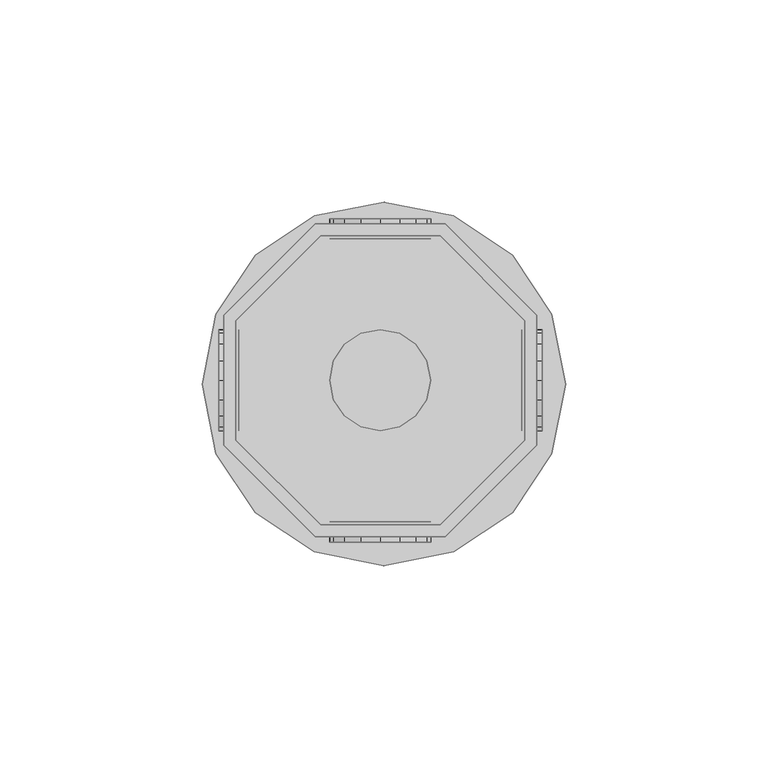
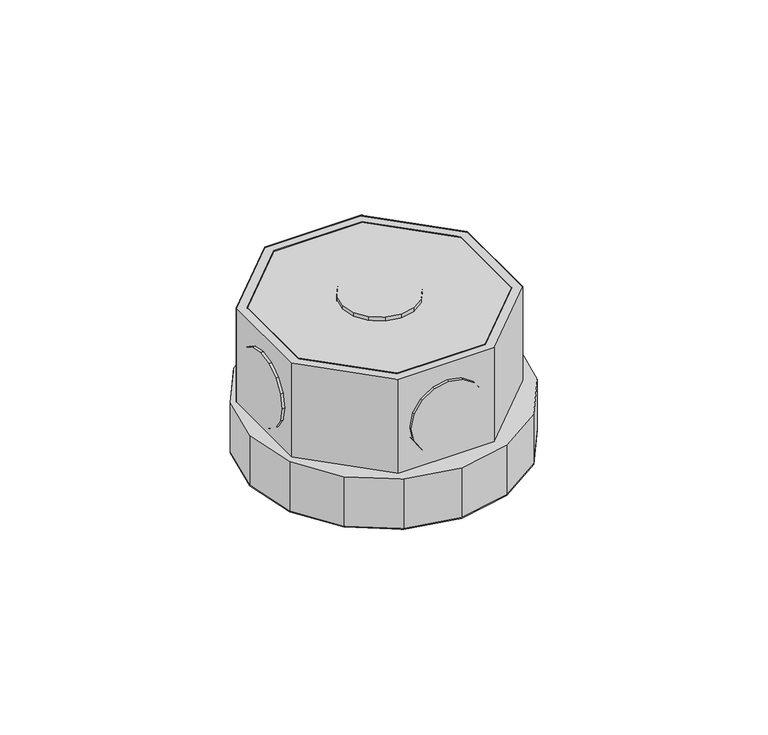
"""IFC4 building model written with IfcOpenShell, lengths in millimetres: light fixture geometry,  213850 :  213850."""

import ifcopenshell
import ifcopenshell.guid

model = None  # the IFC model being written
_history = None  # IfcOwnerHistory: only IFC2X3 demands one
_inside = {}  # id of a spatial element -> (the spatial element, [elements in it])
_under = {}  # id of a project, library or spatial element -> (it, [spatial elements below it])
_declared = {}  # id of a project -> (the project, [libraries it declares])
_typed = {}  # id of a type object -> (the type object, [elements of that type])
_made_of = {}  # id of a material, layer set ... -> (it, [elements and type objects made of it])


def new_model(schema):
    """Start an empty IFC model of exactly this schema.

    Asked for "IFC4X3", IfcOpenShell would pick the latest addendum, in which some entities
    have other attributes; the version numbers below select the first issue.
    IFC2X3 requires an IfcOwnerHistory on every rooted entity: one is made here for all.
    """
    global model, _history
    if schema == "IFC4X3":
        model = ifcopenshell.file(schema_version=(4, 3, 0, 0))
    else:
        model = ifcopenshell.file(schema=schema)
    _inside.clear()
    _under.clear()
    _declared.clear()
    _typed.clear()
    _made_of.clear()
    _history = None
    if model.schema == "IFC2X3":
        org = make("IfcOrganization", Name="unknown")
        user = make(
            "IfcPersonAndOrganization",
            ThePerson=make("IfcPerson", FamilyName="unknown"),
            TheOrganization=org,
        )
        app = make(
            "IfcApplication",
            ApplicationDeveloper=org,
            Version="unknown",
            ApplicationFullName="unknown",
            ApplicationIdentifier="unknown",
        )
        _history = make(
            "IfcOwnerHistory",
            OwningUser=user,
            OwningApplication=app,
            ChangeAction="ADDED",
            CreationDate=0,
        )
    return model


def make(cls, **values):
    """One entity of the class cls with the attributes given. An attribute that is None is left unset."""
    return model.create_entity(
        cls, **{name: value for name, value in values.items() if value is not None}
    )


def rooted(cls, **values):
    """An entity with a GlobalId (a new one), such as an element, a storey or a relation."""
    return make(cls, GlobalId=ifcopenshell.guid.new(), OwnerHistory=_history, **values)


def si_unit(unit_type, name, prefix=None):
    """IfcSIUnit, for example si_unit("LENGTHUNIT", "METRE", prefix="MILLI")."""
    return make("IfcSIUnit", UnitType=unit_type, Prefix=prefix, Name=name)


def assignment(units):
    """IfcUnitAssignment: the units of a project."""
    return None if units is None else make("IfcUnitAssignment", Units=units)


def point(xyz):
    """IfcCartesianPoint."""
    return None if xyz is None else make("IfcCartesianPoint", Coordinates=xyz)


def direction(xyz):
    """IfcDirection."""
    return None if xyz is None else make("IfcDirection", DirectionRatios=xyz)


def frame(location, z_axis=None, x_axis=None):
    """IfcAxis2Placement3D, a coordinate frame: its origin and axes. An axis left out is left unset."""
    return make(
        "IfcAxis2Placement3D",
        Location=point(location),
        Axis=direction(z_axis),
        RefDirection=direction(x_axis),
    )


def origin():
    """The frame at (0, 0, 0) with its axes left unset."""
    return frame((0.0, 0.0, 0.0))


def place(relative_to, where):
    """IfcLocalPlacement: puts the frame where relative to a parent placement (None: the world)."""
    return make(
        "IfcLocalPlacement", PlacementRelTo=relative_to, RelativePlacement=where
    )


def context(
    kind, dimensions, precision=None, world=None, true_north=None, identifier=None
):
    """IfcGeometricRepresentationContext, for example the 3D "Model" context."""
    return make(
        "IfcGeometricRepresentationContext",
        ContextIdentifier=identifier,
        ContextType=kind,
        CoordinateSpaceDimension=dimensions,
        Precision=precision,
        WorldCoordinateSystem=world,
        TrueNorth=true_north,
    )


def project(units=None, contexts=None):
    """IfcProject with its units and contexts."""
    return rooted(
        "IfcProject",
        Name="project",
        RepresentationContexts=contexts,
        UnitsInContext=assignment(units),
    )


def spatial(cls, under=None, at=None, **own):
    """A site, building, storey or space (cls), placed at a placement, below another one or the project."""
    s = rooted(cls, ObjectPlacement=at, **own)
    if under is not None:
        _under.setdefault(under.id(), (under, []))[1].append(s)
    return s


def point_list(points):
    """IfcCartesianPointList2D or 3D."""
    cls = (
        "IfcCartesianPointList2D" if len(points[0]) == 2 else "IfcCartesianPointList3D"
    )
    return make(cls, CoordList=points)


def triangles(points, corners, closed=None, point_numbers=None):
    """IfcTriangulatedFaceSet: each triangle names its three corners, points numbered from 1."""
    return make(
        "IfcTriangulatedFaceSet",
        Coordinates=point_list(points),
        Closed=closed,
        CoordIndex=corners,
        PnIndex=point_numbers,
    )


def shape(context_of_items, identifier, shape_type, items):
    """IfcShapeRepresentation: the items that make up one representation, for example the "Body"."""
    return make(
        "IfcShapeRepresentation",
        ContextOfItems=context_of_items,
        RepresentationIdentifier=identifier,
        RepresentationType=shape_type,
        Items=items,
    )


def source(mapping_origin, context_of_items, identifier, shape_type, items):
    """IfcRepresentationMap: a shape defined once, which mapped items show again and again."""
    return make(
        "IfcRepresentationMap",
        MappingOrigin=mapping_origin,
        MappedRepresentation=shape(context_of_items, identifier, shape_type, items),
    )


def transform(
    local_origin,
    x_axis=None,
    y_axis=None,
    z_axis=None,
    scale=None,
    scale2=None,
    scale3=None,
    uniform=True,
):
    """IfcCartesianTransformationOperator3D, or its non-uniform kind. x_axis, y_axis, z_axis: its Axis1, 2, 3."""
    if uniform:
        return make(
            "IfcCartesianTransformationOperator3D",
            Axis1=direction(x_axis),
            Axis2=direction(y_axis),
            LocalOrigin=point(local_origin),
            Scale=scale,
            Axis3=direction(z_axis),
        )
    return make(
        "IfcCartesianTransformationOperator3DnonUniform",
        Axis1=direction(x_axis),
        Axis2=direction(y_axis),
        LocalOrigin=point(local_origin),
        Scale=scale,
        Axis3=direction(z_axis),
        Scale2=scale2,
        Scale3=scale3,
    )


def mapped(mapping_source, mapping_target):
    """IfcMappedItem: shows the shape of a source again, moved by a transform."""
    return make(
        "IfcMappedItem", MappingSource=mapping_source, MappingTarget=mapping_target
    )


def made_of(thing, what):
    """Note that an element or type object is made of a material, layer set ...; save() writes the relation."""
    if what is not None:
        _made_of.setdefault(what.id(), (what, []))[1].append(thing)
    return thing


def element(
    cls,
    number,
    at=None,
    inside=None,
    cuts=None,
    type_object=None,
    material=None,
    context=None,
    identifier="Body",
    shape_type=None,
    held_by="IfcProductDefinitionShape",
    body=None,
    shapes=None,
    **own,
):
    """One element of the class cls, such as IfcWall. Its Tag is "e" and its number.

    at: its placement. inside: the storey or other place that contains it. cuts: it is an
    opening in that element (IfcRelVoidsElement). A single representation is given by context,
    identifier, shape_type and body (its items); several are given by shapes. held_by: the class
    of the entity that holds the representations. save() writes the other relations.
    """
    e = rooted(cls, Tag="e%d" % number, ObjectPlacement=at, **own)
    if body is not None:
        shapes = [shape(context, identifier, shape_type, body)]
    if shapes is not None:
        e.Representation = make(held_by, Representations=shapes)
    if inside is not None:
        _inside.setdefault(inside.id(), (inside, []))[1].append(e)
    if cuts is not None:
        rooted(
            "IfcRelVoidsElement", RelatingBuildingElement=cuts, RelatedOpeningElement=e
        )
    if type_object is not None:
        _typed.setdefault(type_object.id(), (type_object, []))[1].append(e)
    return made_of(e, material)


def aggregate(whole, parts):
    """IfcRelAggregates: a whole, such as a stair, and the parts it consists of."""
    return rooted("IfcRelAggregates", RelatingObject=whole, RelatedObjects=parts)


def save(model, path):
    """Write the relations noted so far, then the file.

    IfcRelAggregates (storeys below a building ...), IfcRelContainedInSpatialStructure (elements
    in a storey), IfcRelDefinesByType, IfcRelAssociatesMaterial and IfcRelDeclares: one each for
    every whole, place, type object, material and project.
    """
    for whole, parts in _under.values():
        aggregate(whole, parts)
    for where, things in _inside.values():
        rooted(
            "IfcRelContainedInSpatialStructure",
            RelatedElements=things,
            RelatingStructure=where,
        )
    for kind, things in _typed.values():
        rooted("IfcRelDefinesByType", RelatedObjects=things, RelatingType=kind)
    for what, things in _made_of.values():
        rooted("IfcRelAssociatesMaterial", RelatedObjects=things, RelatingMaterial=what)
    for by, libraries in _declared.values():
        rooted("IfcRelDeclares", RelatingContext=by, RelatedDefinitions=libraries)
    model.write(path)


def light_fixture_b59c6fc7(model_context):
    return source(origin(), model_context, "Body", "Tessellation", [
        triangles([(9614.9997391, 25520.5003967, 2924.5999741), (9585.3998016, 25520.5003967, 2975.400071), (9585.3998016, 25520.5003967, 2924.5999741), (9614.9997391, 25520.5003967, 2975.400071), (9616.2002472, 25446.000293, 2924.5999741), (9584.099881, 25446.000293, 2975.400071), (9584.099881, 25446.000293, 2924.5999741), (9616.2002472, 25446.000293, 2975.400071), (9564.3999207, 25499.499353, 2975.400071), (9564.3999207, 25499.499353, 2924.5999741), (9638.9000244, 25468.6989075, 2924.5999741), (9638.9000244, 25468.6989075, 2975.400071), (9564.3999207, 25469.9011597, 2975.400071), (9564.3999207, 25469.9011597, 2924.5999741), (9638.9000244, 25500.7992737, 2924.5999741), (9638.9000244, 25500.7992737, 2975.400071), (9585.3998016, 25449.0001099, 2975.400071), (9585.3998016, 25449.0001099, 2924.5999741), (9616.2002472, 25523.5002136, 2924.5999741), (9616.2002472, 25523.5002136, 2975.400071), (9614.9997391, 25449.0001099, 2924.5999741), (9614.9997391, 25449.0001099, 2975.400071), (9584.099881, 25523.5002136, 2975.400071), (9584.099881, 25523.5002136, 2924.5999741), (9635.9002075, 25469.9011597, 2924.5999741), (9635.9002075, 25469.9011597, 2975.400071), (9561.4001038, 25500.7992737, 2975.400071), (9561.4001038, 25500.7992737, 2924.5999741), (9561.4001038, 25468.6989075, 2975.400071), (9635.9002075, 25499.499353, 2975.400071), (9635.9002075, 25499.499353, 2924.5999741), (9561.4001038, 25468.6989075, 2924.5999741), (9564.3999207, 25469.9011597, 2972.3999634), (9585.3998016, 25449.0001099, 2972.3999634), (9614.9997391, 25449.0001099, 2972.3999634), (9635.9002075, 25469.9011597, 2972.3999634), (9635.9002075, 25499.499353, 2972.3999634), (9614.9997391, 25520.5003967, 2972.3999634), (9585.3998016, 25520.5003967, 2972.3999634), (9564.3999207, 25499.499353, 2972.3999634), (9561.4001038, 25500.7992737, 2942.4000504), (9584.099881, 25523.5002136, 2942.4000504), (9616.2002472, 25523.5002136, 2942.4000504), (9638.9000244, 25500.7992737, 2942.4000504), (9638.9000244, 25468.6989075, 2942.4000504), (9616.2002472, 25446.000293, 2942.4000504), (9584.099881, 25446.000293, 2942.4000504), (9561.4001038, 25468.6989075, 2942.4000504), (9583.7998993, 25442.3005188, 2942.4000504), (9559.5002197, 25466.5990356, 2942.4000504), (9569.200209, 25451.9999268, 2942.4000504), (9556.0998459, 25483.8003113, 2942.4000504), (9559.5002197, 25501.0992554, 2942.4000504), (9569.200209, 25515.7006897, 2942.4000504), (9583.7998993, 25525.4000977, 2942.4000504), (9601.1000061, 25528.7998901, 2942.4000504), (9618.300119, 25525.4000977, 2942.4000504), (9642.5997986, 25501.0992554, 2942.4000504), (9632.8998093, 25515.7006897, 2942.4000504), (9601.1000061, 25438.8007324, 2942.4000504), (9618.300119, 25442.3005188, 2942.4000504), (9632.8998093, 25451.9999268, 2942.4000504), (9642.5997986, 25466.5990356, 2942.4000504), (9646.1001663, 25483.8003113, 2942.4000504), (9559.5002197, 25466.5990356, 2924.5999741), (9583.7998993, 25442.3005188, 2924.5999741), (9569.200209, 25451.9999268, 2924.5999741), (9556.0998459, 25483.8003113, 2924.5999741), (9559.5002197, 25501.0992554, 2924.5999741), (9569.200209, 25515.7006897, 2924.5999741), (9583.7998993, 25525.4000977, 2924.5999741), (9601.1000061, 25528.7998901, 2924.5999741), (9618.300119, 25525.4000977, 2924.5999741), (9642.5997986, 25501.0992554, 2924.5999741), (9632.8998093, 25515.7006897, 2924.5999741), (9601.1000061, 25438.8007324, 2924.5999741), (9618.300119, 25442.3005188, 2924.5999741), (9632.8998093, 25451.9999268, 2924.5999741), (9642.5997986, 25466.5990356, 2924.5999741), (9646.1001663, 25483.8003113, 2924.5999741), (9588.6001877, 25524.7001404, 2952.6000092), (9595.3997726, 25524.7001404, 2945.9001274), (9591.3000229, 25524.7001404, 2948.5999626), (9587.7002426, 25524.7001404, 2957.4000069), (9600.200061, 25524.7001404, 2944.8998978), (9588.6001877, 25524.7001404, 2962.2000046), (9604.9997681, 25524.7001404, 2945.9001274), (9591.3000229, 25524.7001404, 2966.2000511), (9609.0001053, 25524.7001404, 2948.5999626), (9595.3997726, 25524.7001404, 2968.8998863), (9611.6999405, 25524.7001404, 2952.6000092), (9600.200061, 25524.7001404, 2969.900116), (9612.6998795, 25524.7001404, 2957.4000069), (9604.9997681, 25524.7001404, 2968.8998863), (9611.6999405, 25524.7001404, 2962.2000046), (9609.0001053, 25524.7001404, 2966.2000511), (9595.3997726, 25519.7004456, 2945.9001274), (9588.6001877, 25519.7004456, 2952.6000092), (9591.3000229, 25519.7004456, 2948.5999626), (9600.200061, 25519.7004456, 2944.8998978), (9587.7002426, 25519.7004456, 2957.4000069), (9604.9997681, 25519.7004456, 2945.9001274), (9588.6001877, 25519.7004456, 2962.2000046), (9609.0001053, 25519.7004456, 2948.5999626), (9591.3000229, 25519.7004456, 2966.2000511), (9595.3997726, 25519.7004456, 2968.8998863), (9611.6999405, 25519.7004456, 2952.6000092), (9600.200061, 25519.7004456, 2969.900116), (9612.6998795, 25519.7004456, 2957.4000069), (9604.9997681, 25519.7004456, 2968.8998863), (9611.6999405, 25519.7004456, 2962.2000046), (9609.0001053, 25519.7004456, 2966.2000511), (9588.6001877, 25449.7000671, 2952.6000092), (9595.3997726, 25449.7000671, 2945.9001274), (9591.3000229, 25449.7000671, 2948.5999626), (9587.7002426, 25449.7000671, 2957.4000069), (9600.200061, 25449.7000671, 2944.8998978), (9588.6001877, 25449.7000671, 2962.2000046), (9604.9997681, 25449.7000671, 2945.9001274), (9591.3000229, 25449.7000671, 2966.2000511), (9609.0001053, 25449.7000671, 2948.5999626), (9595.3997726, 25449.7000671, 2968.8998863), (9611.6999405, 25449.7000671, 2952.6000092), (9600.200061, 25449.7000671, 2969.900116), (9612.6998795, 25449.7000671, 2957.4000069), (9604.9997681, 25449.7000671, 2968.8998863), (9611.6999405, 25449.7000671, 2962.2000046), (9609.0001053, 25449.7000671, 2966.2000511), (9595.3997726, 25444.7003723, 2945.9001274), (9588.6001877, 25444.7003723, 2952.6000092), (9591.3000229, 25444.7003723, 2948.5999626), (9600.200061, 25444.7003723, 2944.8998978), (9587.7002426, 25444.7003723, 2957.4000069), (9604.9997681, 25444.7003723, 2945.9001274), (9588.6001877, 25444.7003723, 2962.2000046), (9609.0001053, 25444.7003723, 2948.5999626), (9591.3000229, 25444.7003723, 2966.2000511), (9595.3997726, 25444.7003723, 2968.8998863), (9611.6999405, 25444.7003723, 2952.6000092), (9600.200061, 25444.7003723, 2969.900116), (9612.6998795, 25444.7003723, 2957.4000069), (9604.9997681, 25444.7003723, 2968.8998863), (9611.6999405, 25444.7003723, 2962.2000046), (9609.0001053, 25444.7003723, 2966.2000511), (9565.1998718, 25479.9005493, 2945.9001274), (9565.1998718, 25473.2009583, 2952.6000092), (9565.1998718, 25475.9007935, 2948.5999626), (9565.1998718, 25484.7002563, 2944.8998978), (9565.1998718, 25472.2010193, 2957.4000069), (9565.1998718, 25489.4999634, 2945.9001274), (9565.1998718, 25473.2009583, 2962.2000046), (9565.1998718, 25493.5997131, 2948.5999626), (9565.1998718, 25475.9007935, 2966.2000511), (9565.1998718, 25479.9005493, 2968.8998863), (9565.1998718, 25496.2995483, 2952.6000092), (9565.1998718, 25484.7002563, 2969.900116), (9565.1998718, 25497.1994934, 2957.4000069), (9565.1998718, 25489.4999634, 2968.8998863), (9565.1998718, 25496.2995483, 2962.2000046), (9565.1998718, 25493.5997131, 2966.2000511), (9560.200177, 25473.2009583, 2952.6000092), (9560.200177, 25479.9005493, 2945.9001274), (9560.200177, 25475.9007935, 2948.5999626), (9560.200177, 25472.2010193, 2957.4000069), (9560.200177, 25484.7002563, 2944.8998978), (9560.200177, 25473.2009583, 2962.2000046), (9560.200177, 25489.4999634, 2945.9001274), (9560.200177, 25475.9007935, 2966.2000511), (9560.200177, 25493.5997131, 2948.5999626), (9560.200177, 25479.9005493, 2968.8998863), (9560.200177, 25496.2995483, 2952.6000092), (9560.200177, 25484.7002563, 2969.900116), (9560.200177, 25497.1994934, 2957.4000069), (9560.200177, 25489.4999634, 2968.8998863), (9560.200177, 25496.2995483, 2962.2000046), (9560.200177, 25493.5997131, 2966.2000511), (9640.1999451, 25479.9005493, 2945.9001274), (9640.1999451, 25473.2009583, 2952.6000092), (9640.1999451, 25475.9007935, 2948.5999626), (9640.1999451, 25484.7002563, 2944.8998978), (9640.1999451, 25472.2010193, 2957.4000069), (9640.1999451, 25489.4999634, 2945.9001274), (9640.1999451, 25473.2009583, 2962.2000046), (9640.1999451, 25493.5997131, 2948.5999626), (9640.1999451, 25475.9007935, 2966.2000511), (9640.1999451, 25479.9005493, 2968.8998863), (9640.1999451, 25496.2995483, 2952.6000092), (9640.1999451, 25484.7002563, 2969.900116), (9640.1999451, 25497.1994934, 2957.4000069), (9640.1999451, 25489.4999634, 2968.8998863), (9640.1999451, 25496.2995483, 2962.2000046), (9640.1999451, 25493.5997131, 2966.2000511), (9635.2002502, 25473.2009583, 2952.6000092), (9635.2002502, 25479.9005493, 2945.9001274), (9635.2002502, 25475.9007935, 2948.5999626), (9635.2002502, 25472.2010193, 2957.4000069), (9635.2002502, 25484.7002563, 2944.8998978), (9635.2002502, 25473.2009583, 2962.2000046), (9635.2002502, 25489.4999634, 2945.9001274), (9635.2002502, 25475.9007935, 2966.2000511), (9635.2002502, 25493.5997131, 2948.5999626), (9635.2002502, 25479.9005493, 2968.8998863), (9635.2002502, 25496.2995483, 2952.6000092), (9635.2002502, 25484.7002563, 2969.900116), (9635.2002502, 25497.1994934, 2957.4000069), (9635.2002502, 25489.4999634, 2968.8998863), (9635.2002502, 25496.2995483, 2962.2000046), (9635.2002502, 25493.5997131, 2966.2000511), (9595.3997726, 25473.2009583, 2976.9999733), (9588.6001877, 25479.9005493, 2976.9999733), (9591.3000229, 25475.9007935, 2976.9999733), (9587.7002426, 25484.7002563, 2976.9999733), (9600.200061, 25472.2010193, 2976.9999733), (9588.6001877, 25489.4999634, 2976.9999733), (9604.9997681, 25473.2009583, 2976.9999733), (9591.3000229, 25493.5997131, 2976.9999733), (9609.0001053, 25475.9007935, 2976.9999733), (9595.3997726, 25496.2995483, 2976.9999733), (9611.6999405, 25479.9005493, 2976.9999733), (9600.200061, 25497.1994934, 2976.9999733), (9612.6998795, 25484.7002563, 2976.9999733), (9604.9997681, 25496.2995483, 2976.9999733), (9611.6999405, 25489.4999634, 2976.9999733), (9609.0001053, 25493.5997131, 2976.9999733), (9588.6001877, 25479.9005493, 2971.9999878), (9595.3997726, 25473.2009583, 2971.9999878), (9591.3000229, 25475.9007935, 2971.9999878), (9587.7002426, 25484.7002563, 2971.9999878), (9600.200061, 25472.2010193, 2971.9999878), (9588.6001877, 25489.4999634, 2971.9999878), (9604.9997681, 25473.2009583, 2971.9999878), (9591.3000229, 25493.5997131, 2971.9999878), (9609.0001053, 25475.9007935, 2971.9999878), (9595.3997726, 25496.2995483, 2971.9999878), (9611.6999405, 25479.9005493, 2971.9999878), (9600.200061, 25497.1994934, 2971.9999878), (9612.6998795, 25484.7002563, 2971.9999878), (9604.9997681, 25496.2995483, 2971.9999878), (9611.6999405, 25489.4999634, 2971.9999878), (9609.0001053, 25493.5997131, 2971.9999878)], [[1, 2, 3], [2, 1, 4], [5, 6, 7], [6, 5, 8], [3, 9, 10], [9, 3, 2], [11, 8, 5], [8, 11, 12], [10, 13, 14], [13, 10, 9], [15, 12, 11], [12, 15, 16], [14, 17, 18], [17, 14, 13], [19, 16, 15], [16, 19, 20], [17, 21, 18], [21, 17, 22], [23, 19, 24], [19, 23, 20], [22, 25, 21], [25, 22, 26], [27, 24, 28], [24, 27, 23], [6, 13, 29], [29, 13, 27], [27, 13, 9], [27, 9, 23], [23, 9, 2], [23, 2, 4], [23, 4, 20], [20, 4, 30], [8, 17, 6], [6, 17, 13], [17, 8, 22], [12, 22, 8], [22, 12, 26], [30, 26, 12], [16, 30, 12], [20, 30, 16], [30, 1, 31], [1, 30, 4], [6, 32, 7], [32, 6, 29], [32, 14, 7], [28, 14, 32], [14, 28, 10], [24, 10, 28], [10, 24, 3], [1, 3, 24], [19, 1, 24], [31, 1, 19], [7, 18, 5], [14, 18, 7], [5, 18, 21], [5, 21, 11], [11, 21, 25], [11, 25, 31], [11, 31, 15], [15, 31, 19], [26, 31, 25], [31, 26, 30], [29, 28, 32], [28, 29, 27], [17, 33, 34], [33, 17, 13], [35, 17, 34], [17, 35, 22], [36, 22, 35], [22, 36, 26], [37, 26, 36], [26, 37, 30], [38, 30, 37], [30, 38, 4], [2, 38, 39], [38, 2, 4], [17, 9, 13], [9, 17, 22], [9, 22, 2], [2, 22, 26], [2, 26, 4], [4, 26, 30], [13, 40, 33], [40, 13, 9], [40, 34, 33], [35, 34, 40], [35, 40, 39], [35, 39, 36], [36, 39, 38], [36, 38, 37], [9, 39, 40], [39, 9, 2], [24, 41, 28], [41, 24, 42], [19, 42, 24], [42, 19, 43], [44, 19, 15], [19, 44, 43], [45, 15, 11], [15, 45, 44], [46, 11, 5], [11, 46, 45], [47, 5, 7], [5, 47, 46], [32, 47, 7], [47, 32, 48], [28, 48, 32], [48, 28, 41], [49, 50, 51], [48, 50, 49], [50, 48, 52], [41, 52, 48], [52, 41, 53], [53, 41, 54], [42, 54, 41], [54, 42, 55], [55, 42, 43], [55, 43, 56], [56, 43, 57], [57, 43, 44], [57, 44, 58], [57, 58, 59], [47, 49, 60], [49, 47, 48], [47, 60, 46], [61, 46, 60], [46, 61, 62], [46, 62, 45], [45, 62, 63], [44, 45, 63], [44, 63, 64], [44, 64, 58], [65, 66, 67], [66, 65, 32], [68, 32, 65], [32, 68, 28], [28, 68, 69], [70, 28, 69], [28, 70, 24], [71, 24, 70], [19, 24, 71], [19, 71, 72], [73, 19, 72], [19, 73, 15], [74, 15, 73], [74, 73, 75], [76, 66, 7], [32, 7, 66], [5, 76, 7], [76, 5, 77], [77, 5, 78], [11, 78, 5], [78, 11, 79], [79, 11, 15], [79, 15, 80], [80, 15, 74], [57, 75, 73], [75, 57, 59], [56, 73, 72], [73, 56, 57], [55, 72, 71], [72, 55, 56], [54, 71, 70], [71, 54, 55], [53, 70, 69], [70, 53, 54], [52, 69, 68], [69, 52, 53], [50, 68, 65], [68, 50, 52], [51, 65, 67], [65, 51, 50], [66, 51, 67], [51, 66, 49], [76, 49, 66], [49, 76, 60], [77, 60, 76], [60, 77, 61], [78, 61, 77], [61, 78, 62], [79, 62, 78], [62, 79, 63], [80, 63, 79], [63, 80, 64], [75, 58, 74], [58, 75, 59], [74, 64, 80], [64, 74, 58], [81, 82, 83], [82, 81, 84], [85, 82, 84], [85, 84, 86], [87, 85, 86], [87, 86, 88], [87, 88, 89], [89, 88, 90], [89, 90, 91], [91, 90, 92], [91, 92, 93], [93, 92, 94], [93, 94, 95], [95, 94, 96], [97, 98, 99], [98, 97, 100], [101, 98, 100], [101, 100, 102], [103, 101, 102], [103, 102, 104], [103, 104, 105], [105, 104, 106], [106, 104, 107], [106, 107, 108], [108, 107, 109], [108, 109, 110], [110, 109, 111], [110, 111, 112], [87, 104, 102], [104, 87, 89], [85, 102, 100], [102, 85, 87], [82, 100, 97], [100, 82, 85], [83, 97, 99], [97, 83, 82], [98, 83, 99], [83, 98, 81], [101, 81, 98], [81, 101, 84], [103, 84, 101], [84, 103, 86], [105, 86, 103], [86, 105, 88], [106, 88, 105], [88, 106, 90], [108, 90, 106], [90, 108, 92], [110, 92, 108], [92, 110, 94], [112, 94, 110], [94, 112, 96], [95, 112, 111], [112, 95, 96], [93, 111, 109], [111, 93, 95], [89, 107, 104], [107, 89, 91], [91, 109, 107], [109, 91, 93], [113, 114, 115], [114, 113, 116], [117, 114, 116], [117, 116, 118], [119, 117, 118], [119, 118, 120], [119, 120, 121], [121, 120, 122], [121, 122, 123], [123, 122, 124], [123, 124, 125], [125, 124, 126], [125, 126, 127], [127, 126, 128], [129, 130, 131], [130, 129, 132], [133, 130, 132], [133, 132, 134], [135, 133, 134], [135, 134, 136], [135, 136, 137], [137, 136, 138], [138, 136, 139], [138, 139, 140], [140, 139, 141], [140, 141, 142], [142, 141, 143], [142, 143, 144], [119, 136, 134], [136, 119, 121], [117, 134, 132], [134, 117, 119], [114, 132, 129], [132, 114, 117], [115, 129, 131], [129, 115, 114], [130, 115, 131], [115, 130, 113], [133, 113, 130], [113, 133, 116], [135, 116, 133], [116, 135, 118], [137, 118, 135], [118, 137, 120], [138, 120, 137], [120, 138, 122], [140, 122, 138], [122, 140, 124], [142, 124, 140], [124, 142, 126], [144, 126, 142], [126, 144, 128], [127, 144, 143], [144, 127, 128], [125, 143, 141], [143, 125, 127], [121, 139, 136], [139, 121, 123], [123, 141, 139], [141, 123, 125], [145, 146, 147], [146, 145, 148], [149, 146, 148], [149, 148, 150], [151, 149, 150], [151, 150, 152], [151, 152, 153], [153, 152, 154], [154, 152, 155], [154, 155, 156], [156, 155, 157], [156, 157, 158], [158, 157, 159], [158, 159, 160], [161, 162, 163], [162, 161, 164], [165, 162, 164], [165, 164, 166], [167, 165, 166], [167, 166, 168], [169, 167, 168], [169, 168, 170], [169, 170, 171], [171, 170, 172], [171, 172, 173], [173, 172, 174], [173, 174, 175], [175, 174, 176], [158, 176, 174], [176, 158, 160], [156, 174, 172], [174, 156, 158], [154, 172, 170], [172, 154, 156], [153, 170, 168], [170, 153, 154], [151, 168, 166], [168, 151, 153], [149, 166, 164], [166, 149, 151], [146, 164, 161], [164, 146, 149], [147, 161, 163], [161, 147, 146], [162, 147, 163], [147, 162, 145], [165, 145, 162], [145, 165, 148], [167, 148, 165], [148, 167, 150], [169, 150, 167], [150, 169, 152], [171, 152, 169], [152, 171, 155], [173, 155, 171], [155, 173, 157], [176, 159, 175], [159, 176, 160], [175, 157, 173], [157, 175, 159], [177, 178, 179], [178, 177, 180], [181, 178, 180], [181, 180, 182], [183, 181, 182], [183, 182, 184], [183, 184, 185], [185, 184, 186], [186, 184, 187], [186, 187, 188], [188, 187, 189], [188, 189, 190], [190, 189, 191], [190, 191, 192], [193, 194, 195], [194, 193, 196], [197, 194, 196], [197, 196, 198], [199, 197, 198], [199, 198, 200], [201, 199, 200], [201, 200, 202], [201, 202, 203], [203, 202, 204], [203, 204, 205], [205, 204, 206], [205, 206, 207], [207, 206, 208], [190, 208, 206], [208, 190, 192], [188, 206, 204], [206, 188, 190], [186, 204, 202], [204, 186, 188], [185, 202, 200], [202, 185, 186], [183, 200, 198], [200, 183, 185], [181, 198, 196], [198, 181, 183], [178, 196, 193], [196, 178, 181], [179, 193, 195], [193, 179, 178], [194, 179, 195], [179, 194, 177], [197, 177, 194], [177, 197, 180], [199, 180, 197], [180, 199, 182], [201, 182, 199], [182, 201, 184], [203, 184, 201], [184, 203, 187], [205, 187, 203], [187, 205, 189], [208, 191, 207], [191, 208, 192], [207, 189, 205], [189, 207, 191], [209, 210, 211], [212, 210, 209], [212, 209, 213], [214, 212, 213], [214, 213, 215], [216, 214, 215], [216, 215, 217], [216, 217, 218], [218, 217, 219], [218, 219, 220], [220, 219, 221], [220, 221, 222], [222, 221, 223], [222, 223, 224], [225, 226, 227], [226, 225, 228], [229, 226, 228], [229, 228, 230], [231, 229, 230], [231, 230, 232], [231, 232, 233], [233, 232, 234], [233, 234, 235], [235, 234, 236], [235, 236, 237], [237, 236, 238], [237, 238, 239], [239, 238, 240], [222, 240, 238], [240, 222, 224], [220, 238, 236], [238, 220, 222], [218, 236, 234], [236, 218, 220], [216, 234, 232], [234, 216, 218], [214, 232, 230], [232, 214, 216], [212, 230, 228], [230, 212, 214], [210, 228, 225], [228, 210, 212], [211, 225, 227], [225, 211, 210], [226, 211, 227], [211, 226, 209], [229, 209, 226], [209, 229, 213], [231, 213, 229], [213, 231, 215], [233, 215, 231], [215, 233, 217], [235, 217, 233], [217, 235, 219], [237, 219, 235], [219, 237, 221], [240, 223, 239], [223, 240, 224], [239, 221, 237], [221, 239, 223]], closed=False),
    ])


if __name__ == "__main__":
    model = new_model("IFC4")
    model_context = context("Model", 3, world=origin())
    ifc_project = project(units=[si_unit("LENGTHUNIT", "METRE", prefix="MILLI")], contexts=[model_context])
    site = spatial("IfcSite", under=ifc_project)
    building = spatial("IfcBuilding", under=site)
    placement = place(None, origin())
    light_fixture_shape = light_fixture_b59c6fc7(model_context)
    element("IfcLightFixture", 1, ObjectType=" 213850 :  213850", at=placement, inside=building, context=model_context, shape_type="MappedRepresentation", body=[
        mapped(light_fixture_shape, transform((0.0, 0.0, 0.0), x_axis=(1.0, 0.0, 0.0), y_axis=(0.0, 1.0, 0.0), z_axis=(0.0, 0.0, 1.0))),
    ])
    save(model, "model.ifc")
